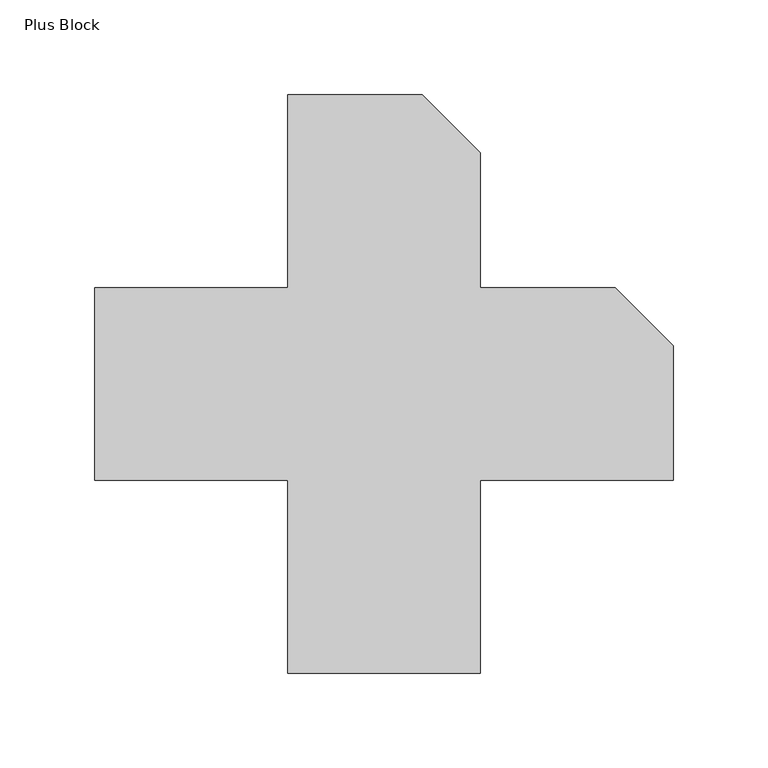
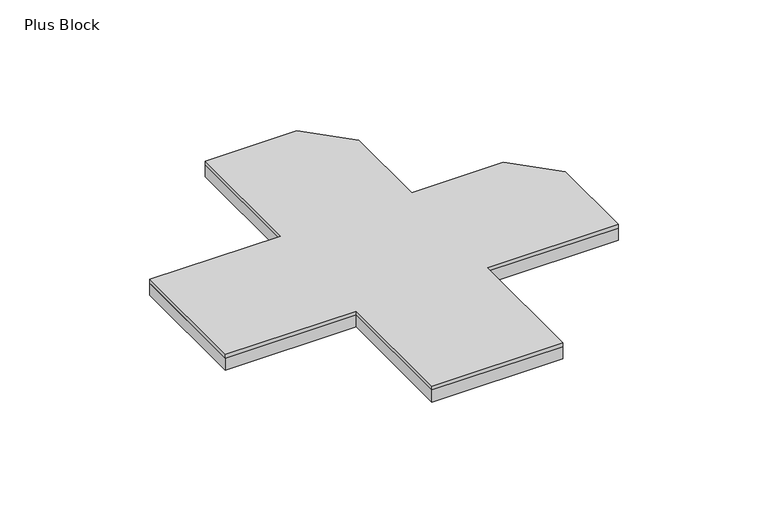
"""IFC4 building model written with IfcOpenShell, lengths in millimetres: proxy geometry, FilzFelt_Plus_Block : Plus Block."""

import ifcopenshell
import ifcopenshell.guid

model = None  # the IFC model being written
_history = None  # IfcOwnerHistory: only IFC2X3 demands one
_inside = {}  # id of a spatial element -> (the spatial element, [elements in it])
_under = {}  # id of a project, library or spatial element -> (it, [spatial elements below it])
_declared = {}  # id of a project -> (the project, [libraries it declares])
_typed = {}  # id of a type object -> (the type object, [elements of that type])
_made_of = {}  # id of a material, layer set ... -> (it, [elements and type objects made of it])


def new_model(schema):
    """Start an empty IFC model of exactly this schema.

    Asked for "IFC4X3", IfcOpenShell would pick the latest addendum, in which some entities
    have other attributes; the version numbers below select the first issue.
    IFC2X3 requires an IfcOwnerHistory on every rooted entity: one is made here for all.
    """
    global model, _history
    if schema == "IFC4X3":
        model = ifcopenshell.file(schema_version=(4, 3, 0, 0))
    else:
        model = ifcopenshell.file(schema=schema)
    _inside.clear()
    _under.clear()
    _declared.clear()
    _typed.clear()
    _made_of.clear()
    _history = None
    if model.schema == "IFC2X3":
        org = make("IfcOrganization", Name="unknown")
        user = make(
            "IfcPersonAndOrganization",
            ThePerson=make("IfcPerson", FamilyName="unknown"),
            TheOrganization=org,
        )
        app = make(
            "IfcApplication",
            ApplicationDeveloper=org,
            Version="unknown",
            ApplicationFullName="unknown",
            ApplicationIdentifier="unknown",
        )
        _history = make(
            "IfcOwnerHistory",
            OwningUser=user,
            OwningApplication=app,
            ChangeAction="ADDED",
            CreationDate=0,
        )
    return model


def make(cls, **values):
    """One entity of the class cls with the attributes given. An attribute that is None is left unset."""
    return model.create_entity(
        cls, **{name: value for name, value in values.items() if value is not None}
    )


def rooted(cls, **values):
    """An entity with a GlobalId (a new one), such as an element, a storey or a relation."""
    return make(cls, GlobalId=ifcopenshell.guid.new(), OwnerHistory=_history, **values)


def si_unit(unit_type, name, prefix=None):
    """IfcSIUnit, for example si_unit("LENGTHUNIT", "METRE", prefix="MILLI")."""
    return make("IfcSIUnit", UnitType=unit_type, Prefix=prefix, Name=name)


def assignment(units):
    """IfcUnitAssignment: the units of a project."""
    return None if units is None else make("IfcUnitAssignment", Units=units)


def point(xyz):
    """IfcCartesianPoint."""
    return None if xyz is None else make("IfcCartesianPoint", Coordinates=xyz)


def direction(xyz):
    """IfcDirection."""
    return None if xyz is None else make("IfcDirection", DirectionRatios=xyz)


def frame(location, z_axis=None, x_axis=None):
    """IfcAxis2Placement3D, a coordinate frame: its origin and axes. An axis left out is left unset."""
    return make(
        "IfcAxis2Placement3D",
        Location=point(location),
        Axis=direction(z_axis),
        RefDirection=direction(x_axis),
    )


def origin():
    """The frame at (0, 0, 0) with its axes left unset."""
    return frame((0.0, 0.0, 0.0))


def origin_with_axes():
    """The frame at (0, 0, 0) with the z axis (0, 0, 1) and the x axis (1, 0, 0) written out."""
    return frame((0.0, 0.0, 0.0), z_axis=(0.0, 0.0, 1.0), x_axis=(1.0, 0.0, 0.0))


def place(relative_to, where):
    """IfcLocalPlacement: puts the frame where relative to a parent placement (None: the world)."""
    return make(
        "IfcLocalPlacement", PlacementRelTo=relative_to, RelativePlacement=where
    )


def context(
    kind, dimensions, precision=None, world=None, true_north=None, identifier=None
):
    """IfcGeometricRepresentationContext, for example the 3D "Model" context."""
    return make(
        "IfcGeometricRepresentationContext",
        ContextIdentifier=identifier,
        ContextType=kind,
        CoordinateSpaceDimension=dimensions,
        Precision=precision,
        WorldCoordinateSystem=world,
        TrueNorth=true_north,
    )


def project(units=None, contexts=None):
    """IfcProject with its units and contexts."""
    return rooted(
        "IfcProject",
        Name="project",
        RepresentationContexts=contexts,
        UnitsInContext=assignment(units),
    )


def spatial(cls, under=None, at=None, **own):
    """A site, building, storey or space (cls), placed at a placement, below another one or the project."""
    s = rooted(cls, ObjectPlacement=at, **own)
    if under is not None:
        _under.setdefault(under.id(), (under, []))[1].append(s)
    return s


def polyline(points):
    """IfcPolyline through the points."""
    return make("IfcPolyline", Points=[point(p) for p in points])


def outline(outer, holes=None, kind="AREA"):
    """IfcArbitraryClosedProfileDef: a profile drawn as a closed curve; with holes, ...WithVoids."""
    if holes is None:
        return make("IfcArbitraryClosedProfileDef", ProfileType=kind, OuterCurve=outer)
    return make(
        "IfcArbitraryProfileDefWithVoids",
        ProfileType=kind,
        OuterCurve=outer,
        InnerCurves=holes,
    )


def extrude(swept, where, along, depth):
    """IfcExtrudedAreaSolid: the profile swept, set in the frame where, extruded along a direction by depth."""
    return make(
        "IfcExtrudedAreaSolid",
        SweptArea=swept,
        Position=where,
        ExtrudedDirection=direction(along),
        Depth=depth,
    )


def shape(context_of_items, identifier, shape_type, items):
    """IfcShapeRepresentation: the items that make up one representation, for example the "Body"."""
    return make(
        "IfcShapeRepresentation",
        ContextOfItems=context_of_items,
        RepresentationIdentifier=identifier,
        RepresentationType=shape_type,
        Items=items,
    )


def source(mapping_origin, context_of_items, identifier, shape_type, items):
    """IfcRepresentationMap: a shape defined once, which mapped items show again and again."""
    return make(
        "IfcRepresentationMap",
        MappingOrigin=mapping_origin,
        MappedRepresentation=shape(context_of_items, identifier, shape_type, items),
    )


def transform(
    local_origin,
    x_axis=None,
    y_axis=None,
    z_axis=None,
    scale=None,
    scale2=None,
    scale3=None,
    uniform=True,
):
    """IfcCartesianTransformationOperator3D, or its non-uniform kind. x_axis, y_axis, z_axis: its Axis1, 2, 3."""
    if uniform:
        return make(
            "IfcCartesianTransformationOperator3D",
            Axis1=direction(x_axis),
            Axis2=direction(y_axis),
            LocalOrigin=point(local_origin),
            Scale=scale,
            Axis3=direction(z_axis),
        )
    return make(
        "IfcCartesianTransformationOperator3DnonUniform",
        Axis1=direction(x_axis),
        Axis2=direction(y_axis),
        LocalOrigin=point(local_origin),
        Scale=scale,
        Axis3=direction(z_axis),
        Scale2=scale2,
        Scale3=scale3,
    )


def mapped(mapping_source, mapping_target):
    """IfcMappedItem: shows the shape of a source again, moved by a transform."""
    return make(
        "IfcMappedItem", MappingSource=mapping_source, MappingTarget=mapping_target
    )


def made_of(thing, what):
    """Note that an element or type object is made of a material, layer set ...; save() writes the relation."""
    if what is not None:
        _made_of.setdefault(what.id(), (what, []))[1].append(thing)
    return thing


def element(
    cls,
    number,
    at=None,
    inside=None,
    cuts=None,
    type_object=None,
    material=None,
    context=None,
    identifier="Body",
    shape_type=None,
    held_by="IfcProductDefinitionShape",
    body=None,
    shapes=None,
    **own,
):
    """One element of the class cls, such as IfcWall. Its Tag is "e" and its number.

    at: its placement. inside: the storey or other place that contains it. cuts: it is an
    opening in that element (IfcRelVoidsElement). A single representation is given by context,
    identifier, shape_type and body (its items); several are given by shapes. held_by: the class
    of the entity that holds the representations. save() writes the other relations.
    """
    e = rooted(cls, Tag="e%d" % number, ObjectPlacement=at, **own)
    if body is not None:
        shapes = [shape(context, identifier, shape_type, body)]
    if shapes is not None:
        e.Representation = make(held_by, Representations=shapes)
    if inside is not None:
        _inside.setdefault(inside.id(), (inside, []))[1].append(e)
    if cuts is not None:
        rooted(
            "IfcRelVoidsElement", RelatingBuildingElement=cuts, RelatedOpeningElement=e
        )
    if type_object is not None:
        _typed.setdefault(type_object.id(), (type_object, []))[1].append(e)
    return made_of(e, material)


def aggregate(whole, parts):
    """IfcRelAggregates: a whole, such as a stair, and the parts it consists of."""
    return rooted("IfcRelAggregates", RelatingObject=whole, RelatedObjects=parts)


def save(model, path):
    """Write the relations noted so far, then the file.

    IfcRelAggregates (storeys below a building ...), IfcRelContainedInSpatialStructure (elements
    in a storey), IfcRelDefinesByType, IfcRelAssociatesMaterial and IfcRelDeclares: one each for
    every whole, place, type object, material and project.
    """
    for whole, parts in _under.values():
        aggregate(whole, parts)
    for where, things in _inside.values():
        rooted(
            "IfcRelContainedInSpatialStructure",
            RelatedElements=things,
            RelatingStructure=where,
        )
    for kind, things in _typed.values():
        rooted("IfcRelDefinesByType", RelatedObjects=things, RelatingType=kind)
    for what, things in _made_of.values():
        rooted("IfcRelAssociatesMaterial", RelatedObjects=things, RelatingMaterial=what)
    for by, libraries in _declared.values():
        rooted("IfcRelDeclares", RelatingContext=by, RelatedDefinitions=libraries)
    model.write(path)


def plus_block_1aacb4cb(model_context):
    return source(origin(), model_context, "Body", "SweptSolid", [
        extrude(outline(polyline([(152.5, -50.8333333), (50.8333333, -50.8333333), (50.8333333, -152.5), (-50.8333333, -152.5), (-50.8333333, -50.8333333), (-152.5, -50.8333333), (-152.5, 50.8333333), (-50.8333333, 50.8333333), (-50.8333333, 152.5), (20.2519994, 152.5), (50.8333333, 121.918666), (50.8333333, 50.8333333), (121.918666, 50.8333333), (152.5, 20.2519994), (152.5, -50.8333333)])), frame((0.0, 0.0, 10.0210937), z_axis=(0.0, 0.0, 1.0), x_axis=(1.0, 0.0, 0.0)), (0.0, 0.0, 1.0), 2.9765625),
        extrude(outline(polyline([(-152.5, -50.8333333), (-152.5, 50.8333333), (-50.8333333, 50.8333333), (-50.8333333, 152.5), (20.2519994, 152.5), (50.8333333, 121.918666), (50.8333333, 50.8333333), (121.918666, 50.8333333), (152.5, 20.2519994), (152.5, -50.8333333), (50.8333333, -50.8333333), (50.8333333, -152.5), (-50.8333333, -152.5), (-50.8333333, -50.8333333), (-152.5, -50.8333333)])), origin_with_axes(), (0.0, 0.0, 1.0), 10.0210938),
    ])


if __name__ == "__main__":
    model = new_model("IFC4")
    model_context = context("Model", 3, world=origin())
    ifc_project = project(units=[si_unit("LENGTHUNIT", "METRE", prefix="MILLI")], contexts=[model_context])
    site = spatial("IfcSite", under=ifc_project)
    building = spatial("IfcBuilding", under=site)
    placement = place(None, origin())
    plus_block_shape = plus_block_1aacb4cb(model_context)
    element("IfcBuildingElementProxy", 1, Name="FilzFelt_Plus_Block : Plus Block", ObjectType="FilzFelt_Plus_Block : Plus Block", at=placement, inside=building, context=model_context, shape_type="MappedRepresentation", body=[
        mapped(plus_block_shape, transform((0.0, 0.0, 0.0), x_axis=(1.0, 0.0, 0.0), y_axis=(0.0, 1.0, 0.0), z_axis=(0.0, 0.0, 1.0))),
    ])
    save(model, "model.ifc")
